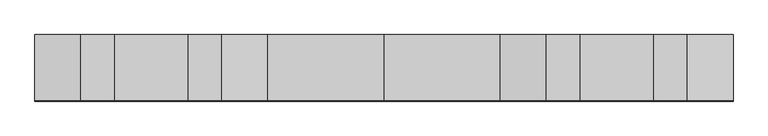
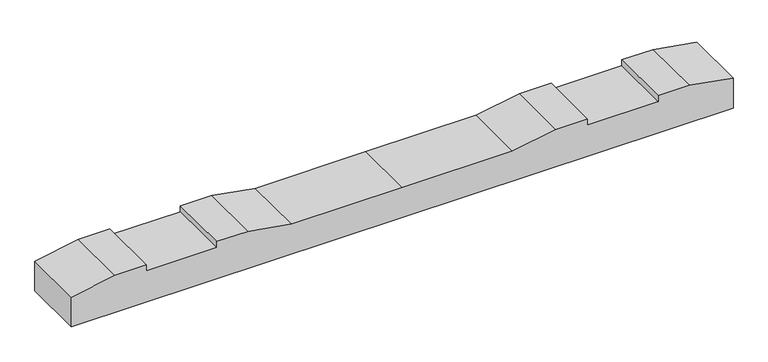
"""IFC4 building model written with IfcOpenShell, lengths in millimetres: proxy geometry, 轨枕-立面角度 : 轨枕-立面角度."""

from ifc_helpers import new_model, si_unit, frame, origin, place, context, project, spatial, polyline, outline, extrude, source, transform, mapped, element, save


def generic_models_bf0e6d81(model_context):
    return source(origin(), model_context, "Body", "SweptSolid", [
        extrude(outline(polyline([(0.0, 0.0), (0.0, -100.020689), (-137.8834664, -124.5), (-237.8834664, -124.5), (-237.8834664, -104.5), (-461.8834664, -104.5), (-461.8834664, -124.5), (-561.8834664, -124.5), (-699.8834664, -100.0), (-1049.8834664, -100.0), (-1399.8834664, -100.0), (-1537.8834664, -124.5), (-1637.8834664, -124.5), (-1637.8834664, -104.5), (-1861.8834664, -104.5), (-1861.8834664, -124.5), (-1961.8834664, -124.5), (-2099.7669328, -100.020689), (-2099.7669328, 0.0), (0.0, 0.0)])), frame((-1049.8834664, 99.6389064, -104.8443529), z_axis=(0.0, -0.9999940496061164, 0.0034497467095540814), x_axis=(-1.0, 0.0, 0.0)), (0.0, 0.0, 1.0), 200.0),
    ])


if __name__ == "__main__":
    model = new_model("IFC4")
    model_context = context("Model", 3, world=origin())
    ifc_project = project(units=[si_unit("LENGTHUNIT", "METRE", prefix="MILLI")], contexts=[model_context])
    site = spatial("IfcSite", under=ifc_project)
    building = spatial("IfcBuilding", under=site)
    placement = place(None, origin())
    generic_models_shape = generic_models_bf0e6d81(model_context)
    element("IfcBuildingElementProxy", 1, Name="轨枕-立面角度 : 轨枕-立面角度", ObjectType="轨枕-立面角度 : 轨枕-立面角度", at=placement, inside=building, context=model_context, shape_type="MappedRepresentation", body=[
        mapped(generic_models_shape, transform((0.0, 0.0, 0.0), x_axis=(1.0, 0.0, 0.0), y_axis=(0.0, 1.0, 0.0), z_axis=(0.0, 0.0, 1.0))),
    ])
    save(model, "model.ifc")
